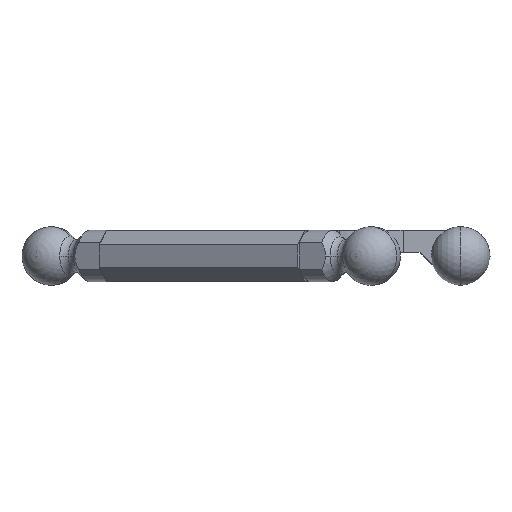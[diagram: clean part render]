
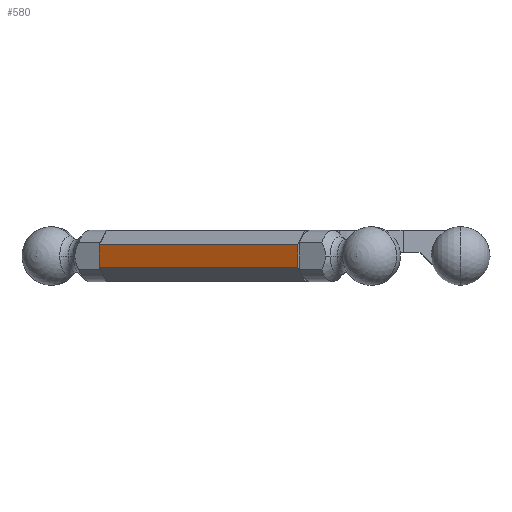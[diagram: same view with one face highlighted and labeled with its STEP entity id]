
A CAD part, front view. The second image highlights one B-rep face of the part: STEP entity #580.
In plain terms, the highlighted planar face has unit normal (-0.5, -0.866, 0).
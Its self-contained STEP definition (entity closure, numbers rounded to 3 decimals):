
#209 = EDGE_CURVE ( 'NONE', #751, #1166, #721, .T. ) ;
#257 = CARTESIAN_POINT ( 'NONE',  ( -52.747, -29.533, -888.545 ) ) ;
#329 = CARTESIAN_POINT ( 'NONE',  ( -52.747, -29.533, -898.549 ) ) ;
#352 = VECTOR ( 'NONE', #2687, 1000. ) ;
#580 = ADVANCED_FACE ( 'NONE', ( #2628 ), #5194, .T. ) ;
#629 = AXIS2_PLACEMENT_3D ( 'NONE', #2155, #6046, #3265 ) ;
#721 = LINE ( 'NONE', #1589, #5039 ) ;
#751 = VERTEX_POINT ( 'NONE', #5938 ) ;
#821 = DIRECTION ( 'NONE',  ( 0.866, -0.5, 0. ) ) ;
#875 = VECTOR ( 'NONE', #821, 1000. ) ;
#1166 = VERTEX_POINT ( 'NONE', #2482 ) ;
#1589 = CARTESIAN_POINT ( 'NONE',  ( 0.947, -60.533, -892.545 ) ) ;
#1659 = CARTESIAN_POINT ( 'NONE',  ( 0.947, -60.533, -888.545 ) ) ;
#1858 = CARTESIAN_POINT ( 'NONE',  ( -52.747, -29.533, -898.549 ) ) ;
#1901 = ORIENTED_EDGE ( 'NONE', *, *, #4288, .T. ) ;
#1961 = EDGE_LOOP ( 'NONE', ( #2169, #6075, #4631, #1901 ) ) ;
#1971 = EDGE_CURVE ( 'NONE', #751, #2801, #4552, .T. ) ;
#2155 = CARTESIAN_POINT ( 'NONE',  ( 0.947, -60.533, -888.545 ) ) ;
#2169 = ORIENTED_EDGE ( 'NONE', *, *, #1971, .F. ) ;
#2426 = DIRECTION ( 'NONE',  ( 0., 0., -1. ) ) ;
#2482 = CARTESIAN_POINT ( 'NONE',  ( -52.747, -29.533, -892.545 ) ) ;
#2617 = DIRECTION ( 'NONE',  ( -0.866, 0.5, 0. ) ) ;
#2628 = FACE_OUTER_BOUND ( 'NONE', #1961, .T. ) ;
#2687 = DIRECTION ( 'NONE',  ( 0., 0., -1. ) ) ;
#2801 = VERTEX_POINT ( 'NONE', #3179 ) ;
#3179 = CARTESIAN_POINT ( 'NONE',  ( 0.947, -60.533, -898.549 ) ) ;
#3265 = DIRECTION ( 'NONE',  ( 0.866, -0.5, 0. ) ) ;
#3268 = LINE ( 'NONE', #1858, #875 ) ;
#3316 = EDGE_CURVE ( 'NONE', #1166, #4938, #5748, .T. ) ;
#4056 = VECTOR ( 'NONE', #2426, 1000. ) ;
#4288 = EDGE_CURVE ( 'NONE', #4938, #2801, #3268, .T. ) ;
#4552 = LINE ( 'NONE', #1659, #352 ) ;
#4631 = ORIENTED_EDGE ( 'NONE', *, *, #3316, .T. ) ;
#4938 = VERTEX_POINT ( 'NONE', #329 ) ;
#5039 = VECTOR ( 'NONE', #2617, 1000. ) ;
#5194 = PLANE ( 'NONE',  #629 ) ;
#5748 = LINE ( 'NONE', #257, #4056 ) ;
#5938 = CARTESIAN_POINT ( 'NONE',  ( 0.947, -60.533, -892.545 ) ) ;
#6046 = DIRECTION ( 'NONE',  ( -0.5, -0.866, 0. ) ) ;
#6075 = ORIENTED_EDGE ( 'NONE', *, *, #209, .T. ) ;
